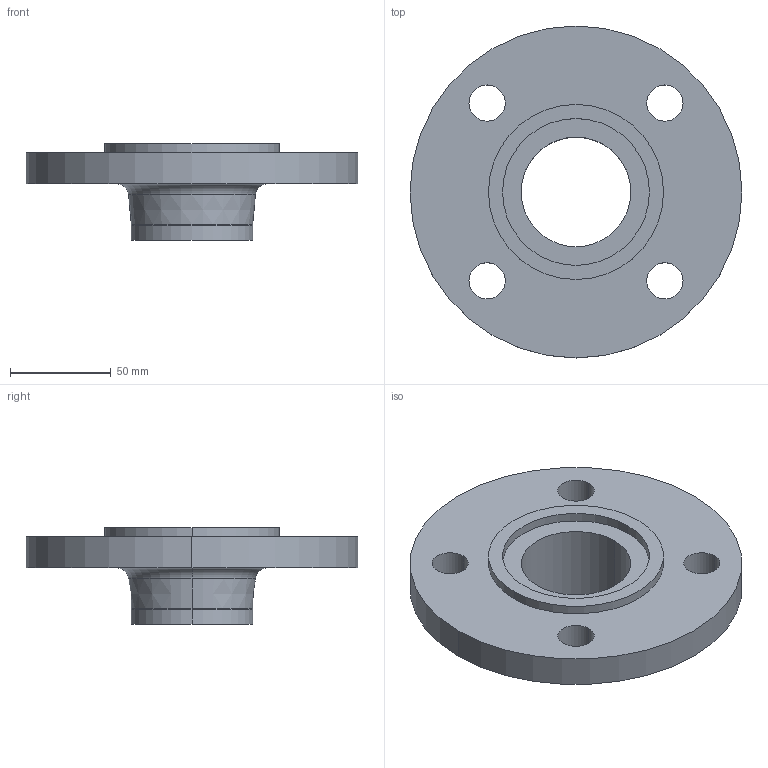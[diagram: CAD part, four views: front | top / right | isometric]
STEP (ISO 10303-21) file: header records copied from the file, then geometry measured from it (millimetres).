
FILE_DESCRIPTION (( 'STEP AP214' ), '1' );
FILE_NAME ('PN40 DN50 Type 11 - Type C Face.STEP', '2018-12-30T04:36:58', ( '' ), ( '' ), 'SwSTEP 2.0', 'SolidWorks 2019', '' );
FILE_SCHEMA (( 'AUTOMOTIVE_DESIGN' ));
Length unit declared in the file: millimetre
Products named in the file (1): PN40 DN50 Type 11 - Type C Face
Bounding box: 165 x 165 x 48 mm (x, y, z)
Volume: 307030.8 mm3; surface area: 61985.5 mm2
Topology: 1 solids, 1 shells, 29 faces, 66 edges, 42 vertices
Faces by surface type: cylinder 18, plane 5, torus 4, cone 2
Entity records: 892 total; most frequent: DIRECTION 172, CARTESIAN_POINT 138, ORIENTED_EDGE 132, AXIS2_PLACEMENT_3D 76, EDGE_CURVE 66, CIRCLE 46, VERTEX_POINT 42, EDGE_LOOP 42
